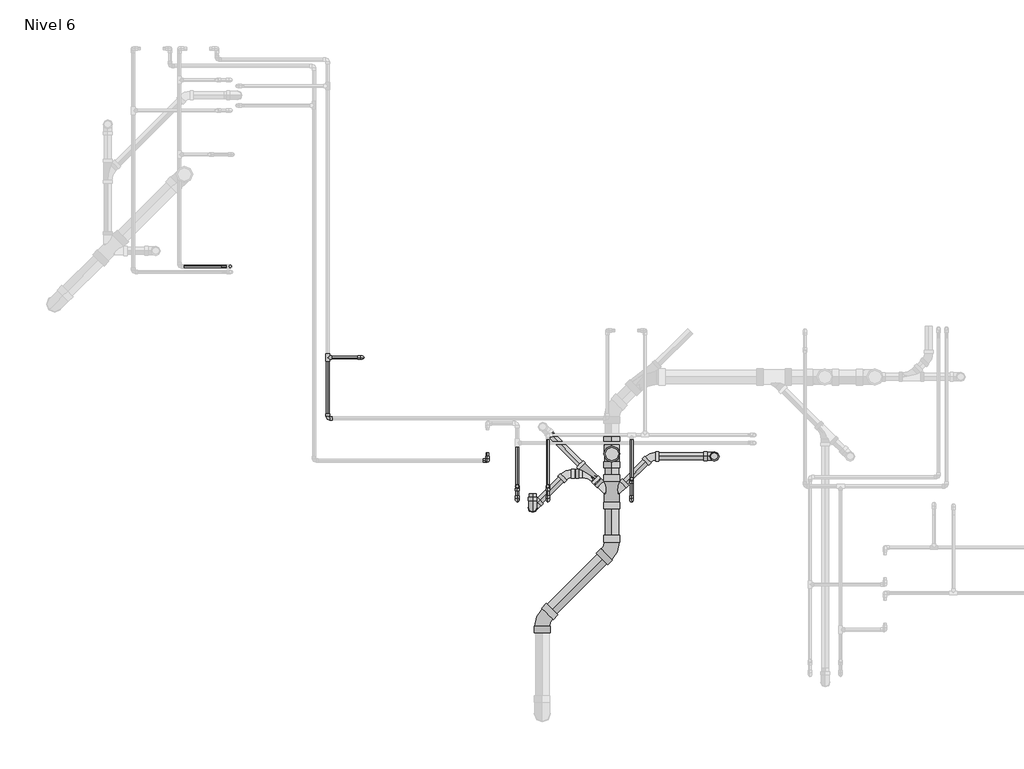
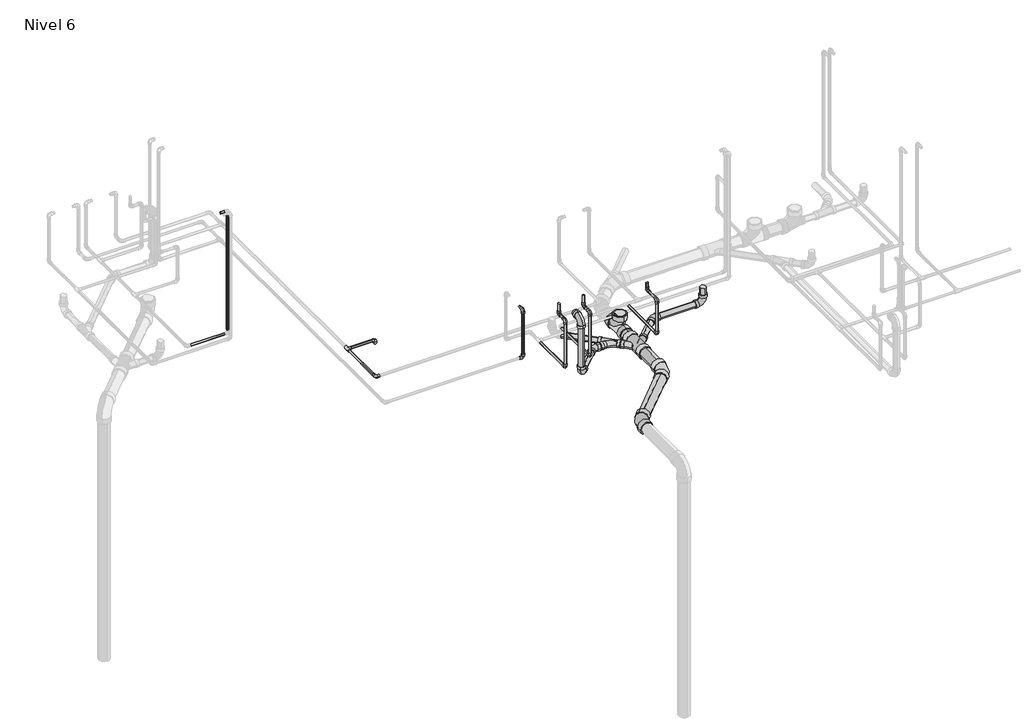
# One storey, part 2 of 11: 32 pipe segments, 24 pipe fittings.
"""IFC4 building model written with IfcOpenShell, lengths in millimetres."""

from ifc_helpers import new_model, si_unit, point, frame, frame_2d, origin, place, context, project, spatial, circle_curve, trimmed, segment, composite_curve, outline, extrude, transform, mapped, element, save
from components import pipe_fitting_ab418b84, pipe_fitting_0163322b, pipe_fitting_2a8dfbef, pipe_fitting_815a0334, m_codo_pvc_serie_40_9ad74631, m_codo_pvc_serie_40_ba05d404, m_codo_pvc_serie_40_dwv1_5c0ec739, m_codo_pvc_serie_40_dwv1_9a7ca077, m_codo_pvc_serie_40_dwv1_6f1a2495

model = new_model("IFC4")

# Units and contexts
model_context = context("Model", 3, world=origin())
ifc_project = project(units=[si_unit("LENGTHUNIT", "METRE", prefix="MILLI")], contexts=[model_context])

# Site, building, storey
site = spatial("IfcSite", under=ifc_project)
building = spatial("IfcBuilding", under=site)
storey = spatial("IfcBuildingStorey", under=building, Name="Nivel 6", Elevation=13400.0)

# Pipe fittings
placement = place(None, origin())
pipe_fitting_shape = pipe_fitting_ab418b84(model_context)
element("IfcPipeFitting", 1, ObjectType="M_Te - PVC - Serie 40 : Estándar", at=placement, inside=storey, context=model_context, shape_type="MappedRepresentation", body=[
    mapped(pipe_fitting_shape, transform((984.8834401, 6705.8793092, 13350.0), x_axis=(0.0, 1.0, 0.0), y_axis=(-1.0, 0.0, 0.0), z_axis=(0.0, 0.0, 1.0))),
])
pipe_fitting_2_shape = pipe_fitting_0163322b(model_context)
element("IfcPipeFitting", 2, ObjectType="M_Sanitario con te de reducción - PVC - Serie 40 - DWV : Estándar", at=placement, inside=storey, context=model_context, shape_type="MappedRepresentation", body=[
    mapped(pipe_fitting_2_shape, transform((3013.6398124, 5806.3652151, 13250.0), x_axis=(-0.7071067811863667, 0.7071067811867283, 0.0), y_axis=(0.7071067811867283, 0.7071067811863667, 0.0), z_axis=(0.0, 0.0, -1.0))),
])
pipe_fitting_3_shape = pipe_fitting_2a8dfbef(model_context)
element("IfcPipeFitting", 3, ObjectType="M_Sanitario con te de reducción - PVC - Serie 40 - DWV : Estándar", at=placement, inside=storey, context=model_context, shape_type="MappedRepresentation", body=[
    mapped(pipe_fitting_3_shape, transform((3183.3960274, 5959.2960273, 13250.0), x_axis=(0.0, -1.0, 0.0), y_axis=(0.0, 0.0, -1.0), z_axis=(1.0, 0.0, 0.0))),
])
pipe_fitting_4_shape = pipe_fitting_815a0334(model_context)
element("IfcPipeFitting", 4, ObjectType="M_Sanitario con te doble con reducción - PVC - Serie 40 - DWV : Estándar", at=placement, inside=storey, context=model_context, shape_type="MappedRepresentation", body=[
    mapped(pipe_fitting_4_shape, transform((3183.3960274, 5636.6090002, 13250.0), x_axis=(0.0, 1.0, 0.0), y_axis=(-1.0, 0.0, 0.0), z_axis=(0.0, 0.0, 1.0))),
])
m_codo_pvc_serie_40_shape = m_codo_pvc_serie_40_9ad74631(model_context)
element("IfcPipeFitting", 5, ObjectType="M_Codo - PVC - Serie 40 : Estándar", at=placement, inside=storey, context=model_context, shape_type="MappedRepresentation", body=[
    mapped(m_codo_pvc_serie_40_shape, transform((984.8834401, 6235.419153, 13350.0), x_axis=(0.0, -1.0, 0.0), y_axis=(1.0, 0.0, 0.0), z_axis=(0.0, 0.0, 1.0))),
])
element("IfcPipeFitting", 6, ObjectType="M_Codo - PVC - Serie 40 : Estándar", at=placement, inside=storey, context=model_context, shape_type="MappedRepresentation", body=[
    mapped(m_codo_pvc_serie_40_shape, transform((2219.8834401, 5907.4295856, 13320.0), x_axis=(1.0, 0.0, 0.0), y_axis=(0.0, 0.0, 1.0), z_axis=(0.0, -1.0, 0.0))),
])
element("IfcPipeFitting", 7, ObjectType="M_Codo - PVC - Serie 40 : Estándar", at=placement, inside=storey, context=model_context, shape_type="MappedRepresentation", body=[
    mapped(m_codo_pvc_serie_40_shape, transform((2219.8834401, 5907.4295856, 13800.0), x_axis=(0.0, 0.0, 1.0), y_axis=(0.0, 1.0, 0.0), z_axis=(-1.0, 0.0, 0.0))),
])
element("IfcPipeFitting", 8, ObjectType="M_Codo - PVC - Serie 40 : Estándar", at=placement, inside=storey, context=model_context, shape_type="MappedRepresentation", body=[
    mapped(m_codo_pvc_serie_40_shape, transform((2688.3784167, 5601.4632634, 13800.0), x_axis=(0.0, -1.0, 0.0), y_axis=(0.0, 0.0, -1.0), z_axis=(1.0, 0.0, 0.0))),
])
element("IfcPipeFitting", 9, ObjectType="M_Codo - PVC - Serie 40 : Estándar", at=placement, inside=storey, context=model_context, shape_type="MappedRepresentation", body=[
    mapped(m_codo_pvc_serie_40_shape, transform((2688.3784167, 5709.9007634, 13800.0), x_axis=(0.0, 1.0, 0.0), y_axis=(0.0, 0.0, 1.0), z_axis=(1.0, 0.0, 0.0))),
])
element("IfcPipeFitting", 10, ObjectType="M_Codo - PVC - Serie 40 : Estándar", at=placement, inside=storey, context=model_context, shape_type="MappedRepresentation", body=[
    mapped(m_codo_pvc_serie_40_shape, transform((2451.6215833, 5601.4632634, 13320.0), x_axis=(0.0, 0.0, -1.0), y_axis=(0.0, 1.0, 0.0), z_axis=(1.0, 0.0, 0.0))),
])
element("IfcPipeFitting", 11, ObjectType="M_Codo - PVC - Serie 40 : Estándar", at=placement, inside=storey, context=model_context, shape_type="MappedRepresentation", body=[
    mapped(m_codo_pvc_serie_40_shape, transform((2688.3784167, 5601.4632634, 13350.0), x_axis=(0.0, 0.0, -1.0), y_axis=(0.0, 1.0, 0.0), z_axis=(1.0, 0.0, 0.0))),
])
element("IfcPipeFitting", 12, ObjectType="M_Codo - PVC - Serie 40 : Estándar", at=placement, inside=storey, context=model_context, shape_type="MappedRepresentation", body=[
    mapped(m_codo_pvc_serie_40_shape, transform((3336.8784649, 5766.3192138, 13700.0), x_axis=(0.0, 0.0, -1.0), y_axis=(0.0, -1.0, 0.0), z_axis=(-1.0, 0.0, 0.0))),
])
element("IfcPipeFitting", 13, ObjectType="M_Codo - PVC - Serie 40 : Estándar", at=placement, inside=storey, context=model_context, shape_type="MappedRepresentation", body=[
    mapped(m_codo_pvc_serie_40_shape, transform((3336.8784649, 5601.3192138, 13700.0), x_axis=(0.0, -1.0, 0.0), y_axis=(0.0, 0.0, -1.0), z_axis=(1.0, 0.0, 0.0))),
])
element("IfcPipeFitting", 14, ObjectType="M_Codo - PVC - Serie 40 : Estándar", at=placement, inside=storey, context=model_context, shape_type="MappedRepresentation", body=[
    mapped(m_codo_pvc_serie_40_shape, transform((3336.8784649, 5601.3192138, 13350.0), x_axis=(0.0, 0.0, -1.0), y_axis=(0.0, 1.0, 0.0), z_axis=(1.0, 0.0, 0.0))),
])
element("IfcPipeFitting", 15, ObjectType="M_Codo - PVC - Serie 40 : Estándar", at=placement, inside=storey, context=model_context, shape_type="MappedRepresentation", body=[
    mapped(m_codo_pvc_serie_40_shape, transform((1251.5388199, 6705.8793092, 13350.0), x_axis=(1.0, 0.0, 0.0), y_axis=(0.0, 0.0, -1.0), z_axis=(0.0, 1.0, 0.0))),
])
m_codo_pvc_serie_40_2_shape = m_codo_pvc_serie_40_ba05d404(model_context)
element("IfcPipeFitting", 16, ObjectType="M_Codo - PVC - Serie 40 : Estándar", at=placement, inside=storey, context=model_context, shape_type="MappedRepresentation", body=[
    mapped(m_codo_pvc_serie_40_2_shape, transform((2451.6215833, 5709.9007634, 13800.0), x_axis=(0.0, 0.0, -1.0), y_axis=(0.0, 1.0, 0.0), z_axis=(1.0, 0.0, 0.0))),
])
element("IfcPipeFitting", 17, ObjectType="M_Codo - PVC - Serie 40 : Estándar", at=placement, inside=storey, context=model_context, shape_type="MappedRepresentation", body=[
    mapped(m_codo_pvc_serie_40_2_shape, transform((2451.6215833, 5601.4632634, 13800.0), x_axis=(0.0, -1.0, 0.0), y_axis=(0.0, 0.0, 1.0), z_axis=(-1.0, 0.0, 0.0))),
])
m_codo_pvc_serie_40_dwv1_shape = m_codo_pvc_serie_40_dwv1_5c0ec739(model_context)
element("IfcPipeFitting", 18, ObjectType="M_Codo - PVC - Serie 40 - DWV1 : Estándar 2", at=placement, inside=storey, context=model_context, shape_type="MappedRepresentation", body=[
    mapped(m_codo_pvc_serie_40_dwv1_shape, transform((2570.0, 5542.0580366, 13810.6716548), x_axis=(0.0, -1.0, 0.0), y_axis=(0.0, 0.0, -1.0), z_axis=(1.0, 0.0, 0.0))),
])
element("IfcPipeFitting", 19, ObjectType="M_Codo - PVC - Serie 40 - DWV1 : Estándar 2", at=placement, inside=storey, context=model_context, shape_type="MappedRepresentation", body=[
    mapped(m_codo_pvc_serie_40_dwv1_shape, transform((2570.0, 5542.0580366, 13250.0), x_axis=(0.0, 0.0, -1.0), y_axis=(0.7071067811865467, 0.7071067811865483, 0.0), z_axis=(0.7071067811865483, -0.7071067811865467, 0.0))),
])
element("IfcPipeFitting", 20, ObjectType="M_Codo - PVC - Serie 40 - DWV1 : Estándar 2", at=placement, inside=storey, context=model_context, shape_type="MappedRepresentation", body=[
    mapped(m_codo_pvc_serie_40_dwv1_shape, transform((3977.2426401, 5940.455613, 13250.0), x_axis=(1.0, 0.0, 0.0), y_axis=(0.0, 0.0, 1.0), z_axis=(0.0, -1.0, 0.0))),
])
m_codo_pvc_serie_40_dwv1_2_shape = m_codo_pvc_serie_40_dwv1_9a7ca077(model_context)
element("IfcPipeFitting", 21, ObjectType="M_Codo - PVC - Serie 40 - DWV1 : Estándar 2", at=placement, inside=storey, context=model_context, shape_type="MappedRepresentation", body=[
    mapped(m_codo_pvc_serie_40_dwv1_2_shape, transform((3183.3960274, 5221.4584858, 13250.0), x_axis=(0.7071067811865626, 0.7071067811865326, 0.0), y_axis=(-0.7071067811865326, 0.7071067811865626, 0.0), z_axis=(0.0, 0.0, 1.0))),
])
element("IfcPipeFitting", 22, ObjectType="M_Codo - PVC - Serie 40 - DWV1 : Estándar 2", at=placement, inside=storey, context=model_context, shape_type="MappedRepresentation", body=[
    mapped(m_codo_pvc_serie_40_dwv1_2_shape, transform((2645.0, 4683.0624585, 13250.0), x_axis=(-0.7071067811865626, -0.7071067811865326, 0.0), y_axis=(0.7071067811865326, -0.7071067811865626, 0.0), z_axis=(0.0, 0.0, 1.0))),
])
m_codo_pvc_serie_40_dwv1_3_shape = m_codo_pvc_serie_40_dwv1_6f1a2495(model_context)
element("IfcPipeFitting", 23, ObjectType="M_Codo - PVC - Serie 40 - DWV1 : Estándar 2", at=placement, inside=storey, context=model_context, shape_type="MappedRepresentation", body=[
    mapped(m_codo_pvc_serie_40_dwv1_3_shape, transform((2834.3071786, 5806.3652151, 13250.0), x_axis=(-1.0, 0.0, 0.0), y_axis=(0.0, -1.0, 0.0), z_axis=(0.0, 0.0, 1.0))),
])
element("IfcPipeFitting", 24, ObjectType="M_Codo - PVC - Serie 40 - DWV1 : Estándar 2", at=placement, inside=storey, context=model_context, shape_type="MappedRepresentation", body=[
    mapped(m_codo_pvc_serie_40_dwv1_3_shape, transform((3487.2426401, 5940.455613, 13250.0), x_axis=(-1.0, 0.0, 0.0), y_axis=(0.0, -1.0, 0.0), z_axis=(0.0, 0.0, 1.0))),
])

# Pipe segments
element("IfcPipeSegment", 25, ObjectType="Tuberia PVC Agua Fria", at=placement, inside=storey, context=model_context, shape_type="SweptSolid", body=[
    extrude(outline(composite_curve([segment(trimmed(circle_curve(frame_2d((13350.0, 984.8834401)), 10.31875), [point((13350.0, 974.5646901))], [point((13339.68125, 984.8834401))], False, "CARTESIAN"), True, "CONTINUOUS"), segment(trimmed(circle_curve(frame_2d((13350.0, 984.8834401)), 10.31875), [point((13339.68125, 984.8834401))], [point((13350.0, 995.2021901))], False, "CARTESIAN"), True, "CONTINUOUS"), segment(trimmed(circle_curve(frame_2d((13350.0, 984.8834401)), 10.31875), [point((13350.0, 995.2021901))], [point((13360.31875, 984.8834401))], False, "CARTESIAN"), True, "CONTINUOUS"), segment(trimmed(circle_curve(frame_2d((13350.0, 984.8834401)), 10.31875), [point((13360.31875, 984.8834401))], [point((13350.0, 974.5646901))], False, "CARTESIAN"), True, "CONTINUOUS")], self_intersect=False)), frame((0.0, 6268.820153, 0.0), z_axis=(0.0, 1.0, 0.0), x_axis=(0.0, 0.0, 1.0)), (0.0, 0.0, 1.0), 406.599),
])
element("IfcPipeSegment", 26, ObjectType="Tuberia PVC Agua Fria", at=placement, inside=storey, context=model_context, shape_type="SweptSolid", body=[
    extrude(outline(composite_curve([segment(trimmed(circle_curve(frame_2d((7410.6576087, 13350.0)), 10.31875), [point((7400.3388587, 13350.0))], [point((7410.6576087, 13360.31875))], False, "CARTESIAN"), True, "CONTINUOUS"), segment(trimmed(circle_curve(frame_2d((7410.6576087, 13350.0)), 10.31875), [point((7410.6576087, 13360.31875))], [point((7420.9763587, 13350.0))], False, "CARTESIAN"), True, "CONTINUOUS"), segment(trimmed(circle_curve(frame_2d((7410.6576087, 13350.0)), 10.31875), [point((7420.9763587, 13350.0))], [point((7410.6576087, 13339.68125))], False, "CARTESIAN"), True, "CONTINUOUS"), segment(trimmed(circle_curve(frame_2d((7410.6576087, 13350.0)), 10.31875), [point((7410.6576087, 13339.68125))], [point((7400.3388587, 13350.0))], False, "CARTESIAN"), True, "CONTINUOUS")], self_intersect=False)), frame((-130.3194345, 0.0, 0.0), z_axis=(1.0, 0.0, 0.0), x_axis=(0.0, 1.0, 0.0)), (0.0, 0.0, 1.0), 330.698),
])
element("IfcPipeSegment", 27, ObjectType="Tuberia PVC Agua Fria", at=placement, inside=storey, context=model_context, shape_type="SweptSolid", body=[
    extrude(outline(composite_curve([segment(trimmed(circle_curve(frame_2d((7410.6576087, 14600.0)), 10.31875), [point((7420.9763587, 14600.0))], [point((7410.6576087, 14589.68125))], False, "CARTESIAN"), True, "CONTINUOUS"), segment(trimmed(circle_curve(frame_2d((7410.6576087, 14600.0)), 10.31875), [point((7410.6576087, 14589.68125))], [point((7400.3388587, 14600.0))], False, "CARTESIAN"), True, "CONTINUOUS"), segment(trimmed(circle_curve(frame_2d((7410.6576087, 14600.0)), 10.31875), [point((7400.3388587, 14600.0))], [point((7410.6576087, 14610.31875))], False, "CARTESIAN"), True, "CONTINUOUS"), segment(trimmed(circle_curve(frame_2d((7410.6576087, 14600.0)), 10.31875), [point((7410.6576087, 14610.31875))], [point((7420.9763587, 14600.0))], False, "CARTESIAN"), True, "CONTINUOUS")], self_intersect=False)), frame((163.7795655, 0.0, 0.0), z_axis=(1.0, 0.0, 0.0), x_axis=(0.0, 1.0, 0.0)), (0.0, 0.0, 1.0), 36.599),
])
element("IfcPipeSegment", 28, ObjectType="Tuberia PVC Agua Fria", at=placement, inside=storey, context=model_context, shape_type="SweptSolid", body=[
    extrude(outline(composite_curve([segment(trimmed(circle_curve(frame_2d((233.7795655, 7410.6576087)), 10.31875), [point((223.4608155, 7410.6576087))], [point((233.7795655, 7420.9763587))], False, "CARTESIAN"), True, "CONTINUOUS"), segment(trimmed(circle_curve(frame_2d((233.7795655, 7410.6576087)), 10.31875), [point((233.7795655, 7420.9763587))], [point((244.0983155, 7410.6576087))], False, "CARTESIAN"), True, "CONTINUOUS"), segment(trimmed(circle_curve(frame_2d((233.7795655, 7410.6576087)), 10.31875), [point((244.0983155, 7410.6576087))], [point((233.7795655, 7400.3388587))], False, "CARTESIAN"), True, "CONTINUOUS"), segment(trimmed(circle_curve(frame_2d((233.7795655, 7410.6576087)), 10.31875), [point((233.7795655, 7400.3388587))], [point((223.4608155, 7410.6576087))], False, "CARTESIAN"), True, "CONTINUOUS")], self_intersect=False)), frame((0.0, 0.0, 13383.401), z_axis=(0.0, 0.0, 1.0), x_axis=(1.0, 0.0, 0.0)), (0.0, 0.0, 1.0), 1183.198),
])
element("IfcPipeSegment", 29, ObjectType="Tuberia PVC Agua Fria", at=placement, inside=storey, context=model_context, shape_type="SweptSolid", body=[
    extrude(outline(composite_curve([segment(trimmed(circle_curve(frame_2d((6705.8793092, 13350.0)), 10.31875), [point((6695.5605592, 13350.0))], [point((6705.8793092, 13360.31875))], False, "CARTESIAN"), True, "CONTINUOUS"), segment(trimmed(circle_curve(frame_2d((6705.8793092, 13350.0)), 10.31875), [point((6705.8793092, 13360.31875))], [point((6716.1980592, 13350.0))], False, "CARTESIAN"), True, "CONTINUOUS"), segment(trimmed(circle_curve(frame_2d((6705.8793092, 13350.0)), 10.31875), [point((6716.1980592, 13350.0))], [point((6705.8793092, 13339.68125))], False, "CARTESIAN"), True, "CONTINUOUS"), segment(trimmed(circle_curve(frame_2d((6705.8793092, 13350.0)), 10.31875), [point((6705.8793092, 13339.68125))], [point((6695.5605592, 13350.0))], False, "CARTESIAN"), True, "CONTINUOUS")], self_intersect=False)), frame((1015.3435963, 0.0, 0.0), z_axis=(1.0, 0.0, 0.0), x_axis=(0.0, 1.0, 0.0)), (0.0, 0.0, 1.0), 202.7942235),
])
element("IfcPipeSegment", 30, ObjectType="Tuberia PVC Agua Fria", at=placement, inside=storey, context=model_context, shape_type="SweptSolid", body=[
    extrude(outline(composite_curve([segment(trimmed(circle_curve(frame_2d((13800.0, 2688.3784167)), 10.31875), [point((13800.0, 2678.0596667))], [point((13789.68125, 2688.3784167))], False, "CARTESIAN"), True, "CONTINUOUS"), segment(trimmed(circle_curve(frame_2d((13800.0, 2688.3784167)), 10.31875), [point((13789.68125, 2688.3784167))], [point((13800.0, 2698.6971667))], False, "CARTESIAN"), True, "CONTINUOUS"), segment(trimmed(circle_curve(frame_2d((13800.0, 2688.3784167)), 10.31875), [point((13800.0, 2698.6971667))], [point((13810.31875, 2688.3784167))], False, "CARTESIAN"), True, "CONTINUOUS"), segment(trimmed(circle_curve(frame_2d((13800.0, 2688.3784167)), 10.31875), [point((13810.31875, 2688.3784167))], [point((13800.0, 2678.0596667))], False, "CARTESIAN"), True, "CONTINUOUS")], self_intersect=False)), frame((0.0, 5634.8642634, 0.0), z_axis=(0.0, 1.0, 0.0), x_axis=(0.0, 0.0, 1.0)), (0.0, 0.0, 1.0), 41.6355),
])
element("IfcPipeSegment", 31, ObjectType="Tuberia PVC Agua Fria", at=placement, inside=storey, context=model_context, shape_type="SweptSolid", body=[
    extrude(outline(composite_curve([segment(trimmed(circle_curve(frame_2d((2688.3784167, 5709.9007634)), 10.31875), [point((2678.0596667, 5709.9007634))], [point((2688.3784167, 5720.2195134))], False, "CARTESIAN"), True, "CONTINUOUS"), segment(trimmed(circle_curve(frame_2d((2688.3784167, 5709.9007634)), 10.31875), [point((2688.3784167, 5720.2195134))], [point((2698.6971667, 5709.9007634))], False, "CARTESIAN"), True, "CONTINUOUS"), segment(trimmed(circle_curve(frame_2d((2688.3784167, 5709.9007634)), 10.31875), [point((2698.6971667, 5709.9007634))], [point((2688.3784167, 5699.5820134))], False, "CARTESIAN"), True, "CONTINUOUS"), segment(trimmed(circle_curve(frame_2d((2688.3784167, 5709.9007634)), 10.31875), [point((2688.3784167, 5699.5820134))], [point((2678.0596667, 5709.9007634))], False, "CARTESIAN"), True, "CONTINUOUS")], self_intersect=False)), frame((0.0, 0.0, 13833.401), z_axis=(0.0, 0.0, 1.0), x_axis=(1.0, 0.0, 0.0)), (0.0, 0.0, 1.0), 74.0983614),
])
element("IfcPipeSegment", 32, ObjectType="Tuberia PVC Agua Fria", at=placement, inside=storey, context=model_context, shape_type="SweptSolid", body=[
    extrude(outline(composite_curve([segment(trimmed(circle_curve(frame_2d((13350.0, 2688.3784167)), 10.31875), [point((13350.0, 2678.0596667))], [point((13339.68125, 2688.3784167))], False, "CARTESIAN"), True, "CONTINUOUS"), segment(trimmed(circle_curve(frame_2d((13350.0, 2688.3784167)), 10.31875), [point((13339.68125, 2688.3784167))], [point((13350.0, 2698.6971667))], False, "CARTESIAN"), True, "CONTINUOUS"), segment(trimmed(circle_curve(frame_2d((13350.0, 2688.3784167)), 10.31875), [point((13350.0, 2698.6971667))], [point((13360.31875, 2688.3784167))], False, "CARTESIAN"), True, "CONTINUOUS"), segment(trimmed(circle_curve(frame_2d((13350.0, 2688.3784167)), 10.31875), [point((13360.31875, 2688.3784167))], [point((13350.0, 2678.0596667))], False, "CARTESIAN"), True, "CONTINUOUS")], self_intersect=False)), frame((0.0, 5634.8642634, 0.0), z_axis=(0.0, 1.0, 0.0), x_axis=(0.0, 0.0, 1.0)), (0.0, 0.0, 1.0), 437.1538896),
])
element("IfcPipeSegment", 33, ObjectType="Tuberia PVC Agua Fria", at=placement, inside=storey, context=model_context, shape_type="SweptSolid", body=[
    extrude(outline(composite_curve([segment(trimmed(circle_curve(frame_2d((2688.3784167, 5601.4632634)), 10.31875), [point((2698.6971667, 5601.4632634))], [point((2688.3784167, 5591.1445134))], False, "CARTESIAN"), True, "CONTINUOUS"), segment(trimmed(circle_curve(frame_2d((2688.3784167, 5601.4632634)), 10.31875), [point((2688.3784167, 5591.1445134))], [point((2678.0596667, 5601.4632634))], False, "CARTESIAN"), True, "CONTINUOUS"), segment(trimmed(circle_curve(frame_2d((2688.3784167, 5601.4632634)), 10.31875), [point((2678.0596667, 5601.4632634))], [point((2688.3784167, 5611.7820134))], False, "CARTESIAN"), True, "CONTINUOUS"), segment(trimmed(circle_curve(frame_2d((2688.3784167, 5601.4632634)), 10.31875), [point((2688.3784167, 5611.7820134))], [point((2698.6971667, 5601.4632634))], False, "CARTESIAN"), True, "CONTINUOUS")], self_intersect=False)), frame((0.0, 0.0, 13383.401), z_axis=(0.0, 0.0, 1.0), x_axis=(1.0, 0.0, 0.0)), (0.0, 0.0, 1.0), 383.198),
])
element("IfcPipeSegment", 34, ObjectType="Tuberia PVC Agua Fria", at=placement, inside=storey, context=model_context, shape_type="SweptSolid", body=[
    extrude(outline(composite_curve([segment(trimmed(circle_curve(frame_2d((13700.0, 3336.8784649)), 10.31875), [point((13700.0, 3326.5597149))], [point((13689.68125, 3336.8784649))], False, "CARTESIAN"), True, "CONTINUOUS"), segment(trimmed(circle_curve(frame_2d((13700.0, 3336.8784649)), 10.31875), [point((13689.68125, 3336.8784649))], [point((13700.0, 3347.1972149))], False, "CARTESIAN"), True, "CONTINUOUS"), segment(trimmed(circle_curve(frame_2d((13700.0, 3336.8784649)), 10.31875), [point((13700.0, 3347.1972149))], [point((13710.31875, 3336.8784649))], False, "CARTESIAN"), True, "CONTINUOUS"), segment(trimmed(circle_curve(frame_2d((13700.0, 3336.8784649)), 10.31875), [point((13710.31875, 3336.8784649))], [point((13700.0, 3326.5597149))], False, "CARTESIAN"), True, "CONTINUOUS")], self_intersect=False)), frame((0.0, 5634.7202138, 0.0), z_axis=(0.0, 1.0, 0.0), x_axis=(0.0, 0.0, 1.0)), (0.0, 0.0, 1.0), 98.198),
])
element("IfcPipeSegment", 35, ObjectType="Tuberia PVC Agua Fria", at=placement, inside=storey, context=model_context, shape_type="SweptSolid", body=[
    extrude(outline(composite_curve([segment(trimmed(circle_curve(frame_2d((3336.8784649, 5766.3192138)), 10.31875), [point((3347.1972149, 5766.3192138))], [point((3336.8784649, 5756.0004638))], False, "CARTESIAN"), True, "CONTINUOUS"), segment(trimmed(circle_curve(frame_2d((3336.8784649, 5766.3192138)), 10.31875), [point((3336.8784649, 5756.0004638))], [point((3326.5597149, 5766.3192138))], False, "CARTESIAN"), True, "CONTINUOUS"), segment(trimmed(circle_curve(frame_2d((3336.8784649, 5766.3192138)), 10.31875), [point((3326.5597149, 5766.3192138))], [point((3336.8784649, 5776.6379638))], False, "CARTESIAN"), True, "CONTINUOUS"), segment(trimmed(circle_curve(frame_2d((3336.8784649, 5766.3192138)), 10.31875), [point((3336.8784649, 5776.6379638))], [point((3347.1972149, 5766.3192138))], False, "CARTESIAN"), True, "CONTINUOUS")], self_intersect=False)), frame((0.0, 0.0, 13733.401), z_axis=(0.0, 0.0, 1.0), x_axis=(1.0, 0.0, 0.0)), (0.0, 0.0, 1.0), 39.7562509),
])
element("IfcPipeSegment", 36, ObjectType="Tuberia PVC Agua Fria", at=placement, inside=storey, context=model_context, shape_type="SweptSolid", body=[
    extrude(outline(composite_curve([segment(trimmed(circle_curve(frame_2d((13350.0, 3336.8784649)), 10.31875), [point((13350.0, 3347.1972149))], [point((13360.31875, 3336.8784649))], False, "CARTESIAN"), True, "CONTINUOUS"), segment(trimmed(circle_curve(frame_2d((13350.0, 3336.8784649)), 10.31875), [point((13360.31875, 3336.8784649))], [point((13350.0, 3326.5597149))], False, "CARTESIAN"), True, "CONTINUOUS"), segment(trimmed(circle_curve(frame_2d((13350.0, 3336.8784649)), 10.31875), [point((13350.0, 3326.5597149))], [point((13339.68125, 3336.8784649))], False, "CARTESIAN"), True, "CONTINUOUS"), segment(trimmed(circle_curve(frame_2d((13350.0, 3336.8784649)), 10.31875), [point((13339.68125, 3336.8784649))], [point((13350.0, 3347.1972149))], False, "CARTESIAN"), True, "CONTINUOUS")], self_intersect=False)), frame((0.0, 5634.7202138, 0.0), z_axis=(0.0, 1.0, 0.0), x_axis=(0.0, 0.0, 1.0)), (0.0, 0.0, 1.0), 440.2387829),
])
element("IfcPipeSegment", 37, ObjectType="Tuberia PVC Agua Fria", at=placement, inside=storey, context=model_context, shape_type="SweptSolid", body=[
    extrude(outline(composite_curve([segment(trimmed(circle_curve(frame_2d((3336.8784649, 5601.3192138)), 10.31875), [point((3347.1972149, 5601.3192138))], [point((3336.8784649, 5591.0004638))], False, "CARTESIAN"), True, "CONTINUOUS"), segment(trimmed(circle_curve(frame_2d((3336.8784649, 5601.3192138)), 10.31875), [point((3336.8784649, 5591.0004638))], [point((3326.5597149, 5601.3192138))], False, "CARTESIAN"), True, "CONTINUOUS"), segment(trimmed(circle_curve(frame_2d((3336.8784649, 5601.3192138)), 10.31875), [point((3326.5597149, 5601.3192138))], [point((3336.8784649, 5611.6379638))], False, "CARTESIAN"), True, "CONTINUOUS"), segment(trimmed(circle_curve(frame_2d((3336.8784649, 5601.3192138)), 10.31875), [point((3336.8784649, 5611.6379638))], [point((3347.1972149, 5601.3192138))], False, "CARTESIAN"), True, "CONTINUOUS")], self_intersect=False)), frame((0.0, 0.0, 13383.401), z_axis=(0.0, 0.0, 1.0), x_axis=(1.0, 0.0, 0.0)), (0.0, 0.0, 1.0), 283.198),
])
element("IfcPipeSegment", 38, ObjectType="Tuberia PVC Agua Caliente", at=placement, inside=storey, context=model_context, shape_type="SweptSolid", body=[
    extrude(outline(composite_curve([segment(trimmed(circle_curve(frame_2d((2219.8834401, 5907.4295856)), 10.31875), [point((2209.5646901, 5907.4295856))], [point((2219.8834401, 5917.7483356))], False, "CARTESIAN"), True, "CONTINUOUS"), segment(trimmed(circle_curve(frame_2d((2219.8834401, 5907.4295856)), 10.31875), [point((2219.8834401, 5917.7483356))], [point((2230.2021901, 5907.4295856))], False, "CARTESIAN"), True, "CONTINUOUS"), segment(trimmed(circle_curve(frame_2d((2219.8834401, 5907.4295856)), 10.31875), [point((2230.2021901, 5907.4295856))], [point((2219.8834401, 5897.1108356))], False, "CARTESIAN"), True, "CONTINUOUS"), segment(trimmed(circle_curve(frame_2d((2219.8834401, 5907.4295856)), 10.31875), [point((2219.8834401, 5897.1108356))], [point((2209.5646901, 5907.4295856))], False, "CARTESIAN"), True, "CONTINUOUS")], self_intersect=False)), frame((0.0, 0.0, 13353.401), z_axis=(0.0, 0.0, 1.0), x_axis=(1.0, 0.0, 0.0)), (0.0, 0.0, 1.0), 413.198),
])
element("IfcPipeSegment", 39, ObjectType="Tuberia PVC Agua Caliente", at=placement, inside=storey, context=model_context, shape_type="SweptSolid", body=[
    extrude(outline(composite_curve([segment(trimmed(circle_curve(frame_2d((13800.0, 2219.8834401)), 10.31875), [point((13800.0, 2230.2021901))], [point((13810.31875, 2219.8834401))], False, "CARTESIAN"), True, "CONTINUOUS"), segment(trimmed(circle_curve(frame_2d((13800.0, 2219.8834401)), 10.31875), [point((13810.31875, 2219.8834401))], [point((13800.0, 2209.5646901))], False, "CARTESIAN"), True, "CONTINUOUS"), segment(trimmed(circle_curve(frame_2d((13800.0, 2219.8834401)), 10.31875), [point((13800.0, 2209.5646901))], [point((13789.68125, 2219.8834401))], False, "CARTESIAN"), True, "CONTINUOUS"), segment(trimmed(circle_curve(frame_2d((13800.0, 2219.8834401)), 10.31875), [point((13789.68125, 2219.8834401))], [point((13800.0, 2230.2021901))], False, "CARTESIAN"), True, "CONTINUOUS")], self_intersect=False)), frame((0.0, 5940.8305856, 0.0), z_axis=(0.0, 1.0, 0.0), x_axis=(0.0, 0.0, 1.0)), (0.0, 0.0, 1.0), 27.599),
])
element("IfcPipeSegment", 40, ObjectType="Tuberia PVC Agua Caliente", at=placement, inside=storey, context=model_context, shape_type="SweptSolid", body=[
    extrude(outline(composite_curve([segment(trimmed(circle_curve(frame_2d((13800.0, 2451.6215833)), 10.31875), [point((13800.0, 2441.3028333))], [point((13789.68125, 2451.6215833))], False, "CARTESIAN"), True, "CONTINUOUS"), segment(trimmed(circle_curve(frame_2d((13800.0, 2451.6215833)), 10.31875), [point((13789.68125, 2451.6215833))], [point((13800.0, 2461.9403333))], False, "CARTESIAN"), True, "CONTINUOUS"), segment(trimmed(circle_curve(frame_2d((13800.0, 2451.6215833)), 10.31875), [point((13800.0, 2461.9403333))], [point((13810.31875, 2451.6215833))], False, "CARTESIAN"), True, "CONTINUOUS"), segment(trimmed(circle_curve(frame_2d((13800.0, 2451.6215833)), 10.31875), [point((13810.31875, 2451.6215833))], [point((13800.0, 2441.3028333))], False, "CARTESIAN"), True, "CONTINUOUS")], self_intersect=False)), frame((0.0, 5634.8642634, 0.0), z_axis=(0.0, 1.0, 0.0), x_axis=(0.0, 0.0, 1.0)), (0.0, 0.0, 1.0), 41.6355),
])
element("IfcPipeSegment", 41, ObjectType="Tuberia PVC Agua Caliente", at=placement, inside=storey, context=model_context, shape_type="SweptSolid", body=[
    extrude(outline(composite_curve([segment(trimmed(circle_curve(frame_2d((2451.6215833, 5709.9007634)), 10.31875), [point((2461.9403333, 5709.9007634))], [point((2451.6215833, 5699.5820134))], False, "CARTESIAN"), True, "CONTINUOUS"), segment(trimmed(circle_curve(frame_2d((2451.6215833, 5709.9007634)), 10.31875), [point((2451.6215833, 5699.5820134))], [point((2441.3028333, 5709.9007634))], False, "CARTESIAN"), True, "CONTINUOUS"), segment(trimmed(circle_curve(frame_2d((2451.6215833, 5709.9007634)), 10.31875), [point((2441.3028333, 5709.9007634))], [point((2451.6215833, 5720.2195134))], False, "CARTESIAN"), True, "CONTINUOUS"), segment(trimmed(circle_curve(frame_2d((2451.6215833, 5709.9007634)), 10.31875), [point((2451.6215833, 5720.2195134))], [point((2461.9403333, 5709.9007634))], False, "CARTESIAN"), True, "CONTINUOUS")], self_intersect=False)), frame((0.0, 0.0, 13833.401), z_axis=(0.0, 0.0, 1.0), x_axis=(1.0, 0.0, 0.0)), (0.0, 0.0, 1.0), 74.0983614),
])
element("IfcPipeSegment", 42, ObjectType="Tuberia PVC Agua Caliente", at=placement, inside=storey, context=model_context, shape_type="SweptSolid", body=[
    extrude(outline(composite_curve([segment(trimmed(circle_curve(frame_2d((2451.6215833, 5601.4632634)), 10.31875), [point((2461.9403333, 5601.4632634))], [point((2451.6215833, 5591.1445134))], False, "CARTESIAN"), True, "CONTINUOUS"), segment(trimmed(circle_curve(frame_2d((2451.6215833, 5601.4632634)), 10.31875), [point((2451.6215833, 5591.1445134))], [point((2441.3028333, 5601.4632634))], False, "CARTESIAN"), True, "CONTINUOUS"), segment(trimmed(circle_curve(frame_2d((2451.6215833, 5601.4632634)), 10.31875), [point((2441.3028333, 5601.4632634))], [point((2451.6215833, 5611.7820134))], False, "CARTESIAN"), True, "CONTINUOUS"), segment(trimmed(circle_curve(frame_2d((2451.6215833, 5601.4632634)), 10.31875), [point((2451.6215833, 5611.7820134))], [point((2461.9403333, 5601.4632634))], False, "CARTESIAN"), True, "CONTINUOUS")], self_intersect=False)), frame((0.0, 0.0, 13353.401), z_axis=(0.0, 0.0, 1.0), x_axis=(1.0, 0.0, 0.0)), (0.0, 0.0, 1.0), 413.198),
])
element("IfcPipeSegment", 43, ObjectType="Tuberia PVC Agua Caliente", at=placement, inside=storey, context=model_context, shape_type="SweptSolid", body=[
    extrude(outline(composite_curve([segment(trimmed(circle_curve(frame_2d((13320.0, 2451.6215833)), 10.31875), [point((13320.0, 2441.3028333))], [point((13309.68125, 2451.6215833))], False, "CARTESIAN"), True, "CONTINUOUS"), segment(trimmed(circle_curve(frame_2d((13320.0, 2451.6215833)), 10.31875), [point((13309.68125, 2451.6215833))], [point((13320.0, 2461.9403333))], False, "CARTESIAN"), True, "CONTINUOUS"), segment(trimmed(circle_curve(frame_2d((13320.0, 2451.6215833)), 10.31875), [point((13320.0, 2461.9403333))], [point((13330.31875, 2451.6215833))], False, "CARTESIAN"), True, "CONTINUOUS"), segment(trimmed(circle_curve(frame_2d((13320.0, 2451.6215833)), 10.31875), [point((13330.31875, 2451.6215833))], [point((13320.0, 2441.3028333))], False, "CARTESIAN"), True, "CONTINUOUS")], self_intersect=False)), frame((0.0, 5634.8642634, 0.0), z_axis=(0.0, 1.0, 0.0), x_axis=(0.0, 0.0, 1.0)), (0.0, 0.0, 1.0), 380.0947334),
])
element("IfcPipeSegment", 44, ObjectType="Tuberia PVC Sanitario", at=placement, inside=storey, context=model_context, shape_type="SweptSolid", body=[
    extrude(outline(composite_curve([segment(trimmed(circle_curve(frame_2d((3183.3960274, 5959.2960273)), 52.3875), [point((3235.7835274, 5959.2960273))], [point((3183.3960274, 5906.9085273))], False, "CARTESIAN"), True, "CONTINUOUS"), segment(trimmed(circle_curve(frame_2d((3183.3960274, 5959.2960273)), 52.3875), [point((3183.3960274, 5906.9085273))], [point((3131.0085274, 5959.2960273))], False, "CARTESIAN"), True, "CONTINUOUS"), segment(trimmed(circle_curve(frame_2d((3183.3960274, 5959.2960273)), 52.3875), [point((3131.0085274, 5959.2960273))], [point((3183.3960274, 6011.6835273))], False, "CARTESIAN"), True, "CONTINUOUS"), segment(trimmed(circle_curve(frame_2d((3183.3960274, 5959.2960273)), 52.3875), [point((3183.3960274, 6011.6835273))], [point((3235.7835274, 5959.2960273))], False, "CARTESIAN"), True, "CONTINUOUS")], self_intersect=False)), frame((0.0, 0.0, 13396.8159687), z_axis=(0.0, 0.0, 1.0), x_axis=(1.0, 0.0, 0.0)), (0.0, 0.0, 1.0), 3.1840312),
])
element("IfcPipeSegment", 45, ObjectType="Tuberia PVC Sanitario", at=placement, inside=storey, context=model_context, shape_type="SweptSolid", body=[
    extrude(outline(composite_curve([segment(trimmed(circle_curve(frame_2d((13250.0, 3183.3960274)), 52.3875), [point((13250.0, 3131.0085274))], [point((13197.6125, 3183.3960274))], False, "CARTESIAN"), True, "CONTINUOUS"), segment(trimmed(circle_curve(frame_2d((13250.0, 3183.3960274)), 52.3875), [point((13197.6125, 3183.3960274))], [point((13250.0, 3235.7835274))], False, "CARTESIAN"), True, "CONTINUOUS"), segment(trimmed(circle_curve(frame_2d((13250.0, 3183.3960274)), 52.3875), [point((13250.0, 3235.7835274))], [point((13302.3875, 3183.3960274))], False, "CARTESIAN"), True, "CONTINUOUS"), segment(trimmed(circle_curve(frame_2d((13250.0, 3183.3960274)), 52.3875), [point((13302.3875, 3183.3960274))], [point((13250.0, 3131.0085274))], False, "CARTESIAN"), True, "CONTINUOUS")], self_intersect=False)), frame((0.0, 5328.6226733, 0.0), z_axis=(0.0, 1.0, 0.0), x_axis=(0.0, 0.0, 1.0)), (0.0, 0.0, 1.0), 205.3623894),
])
element("IfcPipeSegment", 46, ObjectType="Tuberia PVC Sanitario", at=placement, inside=storey, context=model_context, shape_type="SweptSolid", body=[
    extrude(outline(composite_curve([segment(trimmed(circle_curve(frame_2d((0.0, 52.3875)), 52.3875), [point((52.3875, 52.3875))], [point((0.0, 0.0))], False, "CARTESIAN"), True, "CONTINUOUS"), segment(trimmed(circle_curve(frame_2d((0.0, 52.3875)), 52.3875), [point((0.0, 0.0))], [point((-52.3875, 52.3875))], False, "CARTESIAN"), True, "CONTINUOUS"), segment(trimmed(circle_curve(frame_2d((0.0, 52.3875)), 52.3875), [point((-52.3875, 52.3875))], [point((0.0, 104.775))], False, "CARTESIAN"), True, "CONTINUOUS"), segment(trimmed(circle_curve(frame_2d((0.0, 52.3875)), 52.3875), [point((0.0, 104.775))], [point((52.3875, 52.3875))], False, "CARTESIAN"), True, "CONTINUOUS")], self_intersect=False)), frame((2720.7765237, 4758.8389822, 13302.3875), z_axis=(0.7071067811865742, 0.7071067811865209, 0.0), x_axis=(0.7071067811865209, -0.7071067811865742, 0.0)), (0.0, 0.0, 1.0), 547.0785888),
])
element("IfcPipeSegment", 47, ObjectType="Tuberia PVC Sanitario", at=placement, inside=storey, context=model_context, shape_type="SweptSolid", body=[
    extrude(outline(composite_curve([segment(trimmed(circle_curve(frame_2d((0.0, 26.9875)), 26.9875), [point((26.9875001, 26.9875))], [point((0.0, 0.0))], False, "CARTESIAN"), True, "CONTINUOUS"), segment(trimmed(circle_curve(frame_2d((0.0, 26.9875)), 26.9875), [point((0.0, 0.0))], [point((-26.9874999, 26.9875))], False, "CARTESIAN"), True, "CONTINUOUS"), segment(trimmed(circle_curve(frame_2d((0.0, 26.9875)), 26.9875), [point((-26.9874999, 26.9875))], [point((0.0, 53.975))], False, "CARTESIAN"), True, "CONTINUOUS"), segment(trimmed(circle_curve(frame_2d((0.0, 26.9875)), 26.9875), [point((0.0, 53.975))], [point((26.9875001, 26.9875))], False, "CARTESIAN"), True, "CONTINUOUS")], self_intersect=False)), frame((3077.5393133, 5742.4657142, 13276.9875), z_axis=(-0.7071067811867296, 0.7071067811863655, 0.0), x_axis=(0.7071067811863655, 0.7071067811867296, 0.0)), (0.0, 0.0, 1.0), 10.433074),
])
element("IfcPipeSegment", 48, ObjectType="Tuberia PVC Sanitario", at=placement, inside=storey, context=model_context, shape_type="SweptSolid", body=[
    extrude(outline(composite_curve([segment(trimmed(circle_curve(frame_2d((13250.0, 3183.3960274)), 52.3875), [point((13250.0, 3131.0085274))], [point((13197.6125, 3183.3960274))], False, "CARTESIAN"), True, "CONTINUOUS"), segment(trimmed(circle_curve(frame_2d((13250.0, 3183.3960274)), 52.3875), [point((13197.6125, 3183.3960274))], [point((13250.0, 3235.7835274))], False, "CARTESIAN"), True, "CONTINUOUS"), segment(trimmed(circle_curve(frame_2d((13250.0, 3183.3960274)), 52.3875), [point((13250.0, 3235.7835274))], [point((13302.3875, 3183.3960274))], False, "CARTESIAN"), True, "CONTINUOUS"), segment(trimmed(circle_curve(frame_2d((13250.0, 3183.3960274)), 52.3875), [point((13302.3875, 3183.3960274))], [point((13250.0, 3131.0085274))], False, "CARTESIAN"), True, "CONTINUOUS")], self_intersect=False)), frame((0.0, 5800.3502944, 0.0), z_axis=(0.0, 1.0, 0.0), x_axis=(0.0, 0.0, 1.0)), (0.0, 0.0, 1.0), 51.1081914),
])
element("IfcPipeSegment", 49, ObjectType="Tuberia PVC Sanitario", at=placement, inside=storey, context=model_context, shape_type="SweptSolid", body=[
    extrude(outline(composite_curve([segment(trimmed(circle_curve(frame_2d((0.0, 26.9875)), 26.9875), [point((26.9875001, 26.9875))], [point((0.0, 0.0))], False, "CARTESIAN"), True, "CONTINUOUS"), segment(trimmed(circle_curve(frame_2d((0.0, 26.9875)), 26.9875), [point((0.0, 0.0))], [point((-26.9874999, 26.9875))], False, "CARTESIAN"), True, "CONTINUOUS"), segment(trimmed(circle_curve(frame_2d((0.0, 26.9875)), 26.9875), [point((-26.9874999, 26.9875))], [point((0.0, 53.975))], False, "CARTESIAN"), True, "CONTINUOUS"), segment(trimmed(circle_curve(frame_2d((0.0, 26.9875)), 26.9875), [point((0.0, 53.975))], [point((26.9875001, 26.9875))], False, "CARTESIAN"), True, "CONTINUOUS")], self_intersect=False)), frame((2628.3660521, 5600.4240887, 13276.9875), z_axis=(0.7071067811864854, 0.7071067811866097, 0.0), x_axis=(0.7071067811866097, -0.7071067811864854, 0.0)), (0.0, 0.0, 1.0), 230.8165466),
])
element("IfcPipeSegment", 50, ObjectType="Tuberia PVC Sanitario", at=placement, inside=storey, context=model_context, shape_type="SweptSolid", body=[
    extrude(outline(composite_curve([segment(trimmed(circle_curve(frame_2d((13810.6716548, 2570.0)), 26.9875), [point((13810.6716548, 2543.0125))], [point((13783.6841548, 2570.0))], False, "CARTESIAN"), True, "CONTINUOUS"), segment(trimmed(circle_curve(frame_2d((13810.6716548, 2570.0)), 26.9875), [point((13783.6841548, 2570.0))], [point((13810.6716548, 2596.9875))], False, "CARTESIAN"), True, "CONTINUOUS"), segment(trimmed(circle_curve(frame_2d((13810.6716548, 2570.0)), 26.9875), [point((13810.6716548, 2596.9875))], [point((13837.6591548, 2570.0))], False, "CARTESIAN"), True, "CONTINUOUS"), segment(trimmed(circle_curve(frame_2d((13810.6716548, 2570.0)), 26.9875), [point((13837.6591548, 2570.0))], [point((13810.6716548, 2543.0125))], False, "CARTESIAN"), True, "CONTINUOUS")], self_intersect=False)), frame((0.0, 5624.6000991, 0.0), z_axis=(0.0, 1.0, 0.0), x_axis=(0.0, 0.0, 1.0)), (0.0, 0.0, 1.0), 25.3999009),
])
element("IfcPipeSegment", 51, ObjectType="Tuberia PVC Sanitario", at=placement, inside=storey, context=model_context, shape_type="SweptSolid", body=[
    extrude(outline(composite_curve([segment(trimmed(circle_curve(frame_2d((2570.0, 5542.0580366)), 26.9875), [point((2596.9875, 5542.0580366))], [point((2570.0, 5515.0705366))], False, "CARTESIAN"), True, "CONTINUOUS"), segment(trimmed(circle_curve(frame_2d((2570.0, 5542.0580366)), 26.9875), [point((2570.0, 5515.0705366))], [point((2543.0125, 5542.0580366))], False, "CARTESIAN"), True, "CONTINUOUS"), segment(trimmed(circle_curve(frame_2d((2570.0, 5542.0580366)), 26.9875), [point((2543.0125, 5542.0580366))], [point((2570.0, 5569.0455366))], False, "CARTESIAN"), True, "CONTINUOUS"), segment(trimmed(circle_curve(frame_2d((2570.0, 5542.0580366)), 26.9875), [point((2570.0, 5569.0455366))], [point((2596.9875, 5542.0580366))], False, "CARTESIAN"), True, "CONTINUOUS")], self_intersect=False)), frame((0.0, 0.0, 13332.5420625), z_axis=(0.0, 0.0, 1.0), x_axis=(1.0, 0.0, 0.0)), (0.0, 0.0, 1.0), 395.5875298),
])
element("IfcPipeSegment", 52, ObjectType="Tuberia PVC Sanitario", at=placement, inside=storey, context=model_context, shape_type="SweptSolid", body=[
    extrude(outline(composite_curve([segment(trimmed(circle_curve(frame_2d((5806.3652151, 13250.0)), 26.9875), [point((5833.3527151, 13250.0))], [point((5806.3652151, 13223.0125))], False, "CARTESIAN"), True, "CONTINUOUS"), segment(trimmed(circle_curve(frame_2d((5806.3652151, 13250.0)), 26.9875), [point((5806.3652151, 13223.0125))], [point((5779.3777151, 13250.0))], False, "CARTESIAN"), True, "CONTINUOUS"), segment(trimmed(circle_curve(frame_2d((5806.3652151, 13250.0)), 26.9875), [point((5779.3777151, 13250.0))], [point((5806.3652151, 13276.9875))], False, "CARTESIAN"), True, "CONTINUOUS"), segment(trimmed(circle_curve(frame_2d((5806.3652151, 13250.0)), 26.9875), [point((5806.3652151, 13276.9875))], [point((5833.3527151, 13250.0))], False, "CARTESIAN"), True, "CONTINUOUS")], self_intersect=False)), frame((2894.7353661, 0.0, 0.0), z_axis=(1.0, 0.0, 0.0), x_axis=(0.0, 1.0, 0.0)), (0.0, 0.0, 1.0), 10.0668396),
])
element("IfcPipeSegment", 53, ObjectType="Tuberia PVC Sanitario", at=placement, inside=storey, context=model_context, shape_type="SweptSolid", body=[
    extrude(outline(composite_curve([segment(trimmed(circle_curve(frame_2d((0.0, 26.9875)), 26.9875), [point((26.9874999, 26.9875))], [point((0.0, 0.0))], False, "CARTESIAN"), True, "CONTINUOUS"), segment(trimmed(circle_curve(frame_2d((0.0, 26.9875)), 26.9875), [point((0.0, 0.0))], [point((-26.9875001, 26.9875))], False, "CARTESIAN"), True, "CONTINUOUS"), segment(trimmed(circle_curve(frame_2d((0.0, 26.9875)), 26.9875), [point((-26.9875001, 26.9875))], [point((0.0, 53.975))], False, "CARTESIAN"), True, "CONTINUOUS"), segment(trimmed(circle_curve(frame_2d((0.0, 26.9875)), 26.9875), [point((0.0, 53.975))], [point((26.9874999, 26.9875))], False, "CARTESIAN"), True, "CONTINUOUS")], self_intersect=False)), frame((3289.2527414, 5742.4657142, 13276.9875), z_axis=(0.7071067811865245, 0.7071067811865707, 0.0), x_axis=(0.7071067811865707, -0.7071067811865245, 0.0)), (0.0, 0.0, 1.0), 219.5718125),
])
element("IfcPipeSegment", 54, ObjectType="Tuberia PVC Sanitario", at=placement, inside=storey, context=model_context, shape_type="SweptSolid", body=[
    extrude(outline(composite_curve([segment(trimmed(circle_curve(frame_2d((5940.455613, 13250.0)), 26.9875), [point((5913.468113, 13250.0))], [point((5940.455613, 13276.9875))], False, "CARTESIAN"), True, "CONTINUOUS"), segment(trimmed(circle_curve(frame_2d((5940.455613, 13250.0)), 26.9875), [point((5940.455613, 13276.9875))], [point((5967.443113, 13250.0))], False, "CARTESIAN"), True, "CONTINUOUS"), segment(trimmed(circle_curve(frame_2d((5940.455613, 13250.0)), 26.9875), [point((5967.443113, 13250.0))], [point((5940.455613, 13223.0125))], False, "CARTESIAN"), True, "CONTINUOUS"), segment(trimmed(circle_curve(frame_2d((5940.455613, 13250.0)), 26.9875), [point((5940.455613, 13223.0125))], [point((5913.468113, 13250.0))], False, "CARTESIAN"), True, "CONTINUOUS")], self_intersect=False)), frame((3547.6708276, 0.0, 0.0), z_axis=(1.0, 0.0, 0.0), x_axis=(0.0, 1.0, 0.0)), (0.0, 0.0, 1.0), 347.02975),
])
element("IfcPipeSegment", 55, ObjectType="Tuberia PVC Sanitario", at=placement, inside=storey, context=model_context, shape_type="SweptSolid", body=[
    extrude(outline(composite_curve([segment(trimmed(circle_curve(frame_2d((0.0, 26.9875)), 26.9875), [point((26.9874999, 26.9875))], [point((0.0, 0.0))], False, "CARTESIAN"), True, "CONTINUOUS"), segment(trimmed(circle_curve(frame_2d((0.0, 26.9875)), 26.9875), [point((0.0, 0.0))], [point((-26.9875001, 26.9875))], False, "CARTESIAN"), True, "CONTINUOUS"), segment(trimmed(circle_curve(frame_2d((0.0, 26.9875)), 26.9875), [point((-26.9875001, 26.9875))], [point((0.0, 53.975))], False, "CARTESIAN"), True, "CONTINUOUS"), segment(trimmed(circle_curve(frame_2d((0.0, 26.9875)), 26.9875), [point((0.0, 53.975))], [point((26.9874999, 26.9875))], False, "CARTESIAN"), True, "CONTINUOUS")], self_intersect=False)), frame((2936.6800027, 5883.3250249, 13276.9875), z_axis=(-0.707106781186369, 0.7071067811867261, 0.0), x_axis=(0.7071067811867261, 0.707106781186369, 0.0)), (0.0, 0.0, 1.0), 322.4579375),
])
element("IfcPipeSegment", 56, ObjectType="Tuberia PVC Sanitario", at=placement, inside=storey, context=model_context, shape_type="SweptSolid", body=[
    extrude(outline(composite_curve([segment(trimmed(circle_curve(frame_2d((3977.2426401, 5940.455613)), 26.9875), [point((3950.2551401, 5940.455613))], [point((3977.2426401, 5967.443113))], False, "CARTESIAN"), True, "CONTINUOUS"), segment(trimmed(circle_curve(frame_2d((3977.2426401, 5940.455613)), 26.9875), [point((3977.2426401, 5967.443113))], [point((4004.2301401, 5940.455613))], False, "CARTESIAN"), True, "CONTINUOUS"), segment(trimmed(circle_curve(frame_2d((3977.2426401, 5940.455613)), 26.9875), [point((4004.2301401, 5940.455613))], [point((3977.2426401, 5913.468113))], False, "CARTESIAN"), True, "CONTINUOUS"), segment(trimmed(circle_curve(frame_2d((3977.2426401, 5940.455613)), 26.9875), [point((3977.2426401, 5913.468113))], [point((3950.2551401, 5940.455613))], False, "CARTESIAN"), True, "CONTINUOUS")], self_intersect=False)), frame((0.0, 0.0, 13332.5420625), z_axis=(0.0, 0.0, 1.0), x_axis=(1.0, 0.0, 0.0)), (0.0, 0.0, 1.0), 67.4579375),
])

save(model, "model.ifc")
